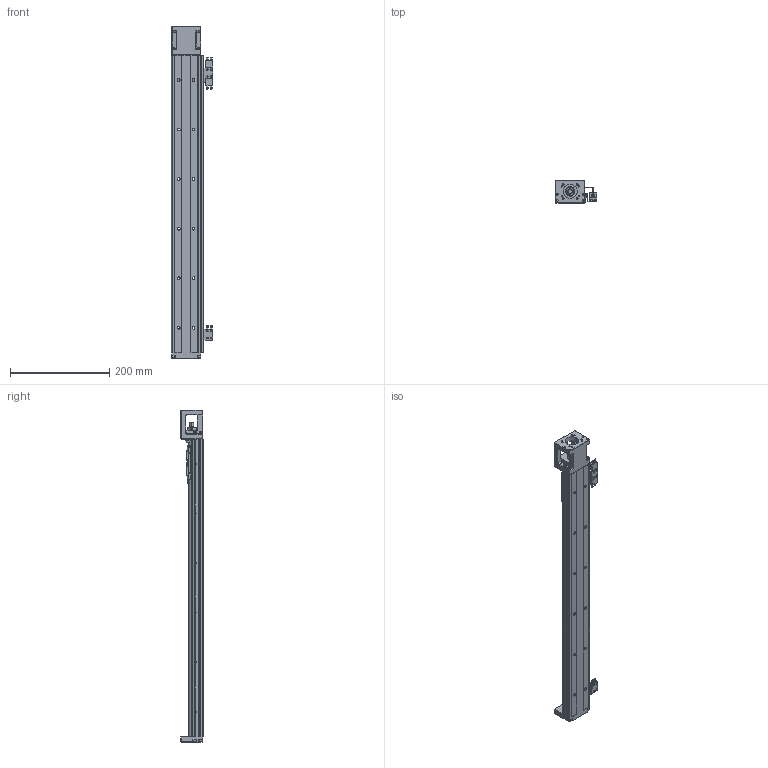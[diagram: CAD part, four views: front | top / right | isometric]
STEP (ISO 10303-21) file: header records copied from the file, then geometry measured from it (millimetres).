
FILE_DESCRIPTION (( 'STEP AP214' ), '1' );
FILE_NAME ('SFKK60-600A1-F0.STEP', '2023-02-17T01:38:57', ( '微软用户' ), ( '微软中国' ), 'SwSTEP 2.0', 'SolidWorks 2018', '' );
FILE_SCHEMA (( 'AUTOMOTIVE_DESIGN' ));
Length unit declared in the file: millimetre
Products named in the file (9): SFKK60-A1; SFKK60-F0_600; SFKK60-600A1-F0; SFKK60-LR 憤癹寢耋_600; 蚐郲; 不带盖挡光片：KK-60-S2-D2; 开关固定座：KK-674S2-F; 极限轨道与开关固定座组合_600; SX674嫖萇羲壽
Assembly tree (11 placements, depth 3):
  SFKK60-600A1-F0
    SFKK60-F0_600
    SFKK60-A1
    蚐郲
    极限轨道与开关固定座组合_600
      SFKK60-LR 憤癹寢耋_600
      开关固定座：KK-674S2-F  x2
    SX674嫖萇羲壽  x3
    不带盖挡光片：KK-60-S2-D2
Bounding box: 83.4 x 44.5 x 670 mm (x, y, z)
Volume: 627721 mm3; surface area: 230112.4 mm2
Topology: 27 solids, 27 shells, 1571 faces, 4122 edges, 2621 vertices
Faces by surface type: plane 777, cylinder 603, cone 120, torus 57, sphere 10, bspline 4
Entity records: 58556 total; most frequent: CARTESIAN_POINT 10934, DIRECTION 7807, ORIENTED_EDGE 7516, EDGE_CURVE 3758, AXIS2_PLACEMENT_3D 2754, VERTEX_POINT 2423, VECTOR 2299, LINE 2299
